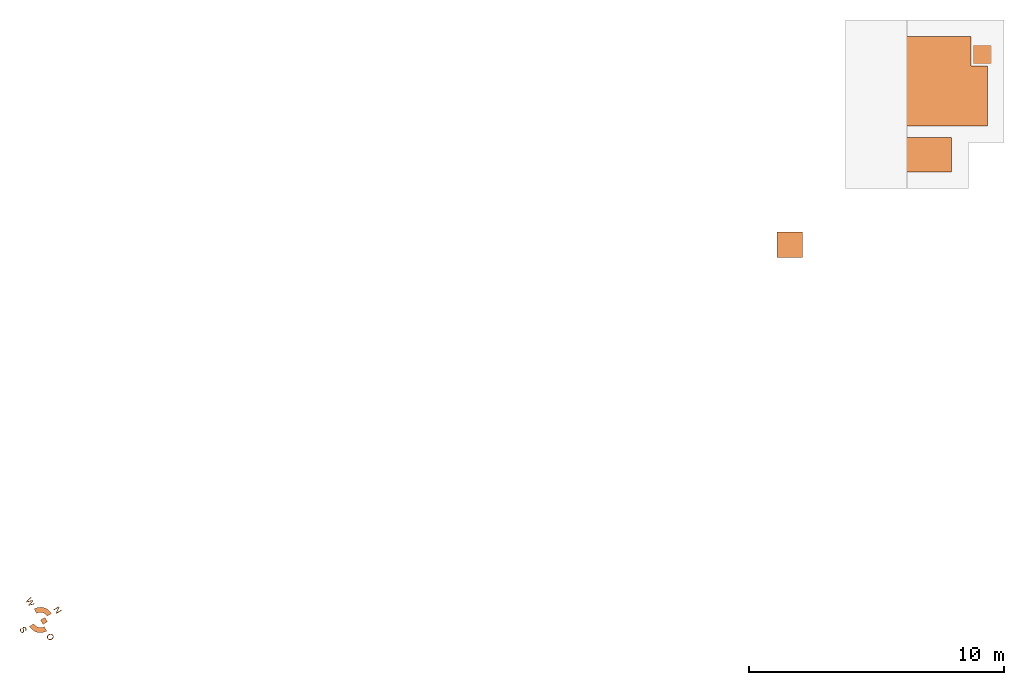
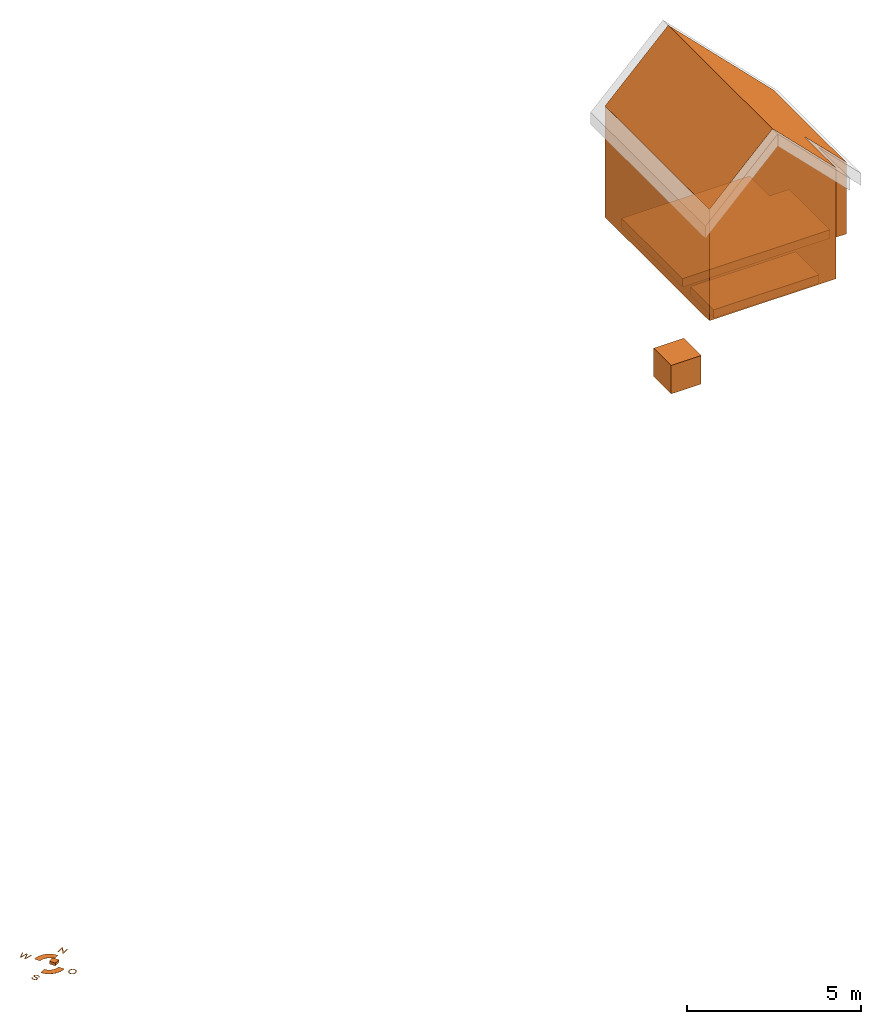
# Not in any storey, part 2 of 2: 4 proxies.
"""IFC2X3 model written with IfcOpenShell, lengths in millimetres."""

from ifc_helpers import new_model, si_unit, frame, origin_with_axes, place, context, subcontext, project, spatial, faceted_brep, material, type_object, element, save


model = new_model("IFC2X3")

# Units and contexts
model_context = context("Model", 3, precision=0.001, world=origin_with_axes())
body_context = subcontext(model_context, "Body", "Model", "MODEL_VIEW")
ifc_project = project(units=[si_unit("LENGTHUNIT", "METRE", prefix="MILLI"), si_unit("AREAUNIT", "SQUARE_METRE"), si_unit("VOLUMEUNIT", "CUBIC_METRE")], contexts=[model_context])

# Site
site_placement = place(None, frame((-28841.016, -14200.0, -1300.0), z_axis=(0.0, 0.0, 1.0), x_axis=(0.4999999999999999, -0.8660254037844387, 0.0)))
site = spatial("IfcSite", under=ifc_project, at=site_placement, Name="environment - site", CompositionType="ELEMENT")

# Proxies
ifc_material_1 = material(Name="virtual_spatial-zone")
building_element_proxy_type_1 = type_object("IfcBuildingElementProxyType", Name="house - gross volume", PredefinedType="NOTDEFINED")
proxy_1_placement = place(site_placement, frame((1024.871, 36175.129, 1300.0), z_axis=(0.0, 0.0, 1.0), x_axis=(0.4999999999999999, 0.8660254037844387, 0.0)))
element("IfcBuildingElementProxy", 1, at=proxy_1_placement, inside=site, type_object=building_element_proxy_type_1, material=ifc_material_1, Name="house - gross volume", ObjectType="gross volume", context=body_context, shape_type="Brep", body=[
    faceted_brep([(2100.0, 0.0, 5700.0), (2100.0, 6000.0, 5700.0), (0.0, 6000.0, 3600.0), (0.0, 0.0, 3600.0), (5600.0, 1800.0, 2200.0), (5600.0, 6000.0, 2200.0), (4200.0, 0.0, 3600.0), (4200.0, 1800.0, 3600.0), (0.0, 6000.0, -300.0), (5600.0, 6000.0, -300.0), (0.0, 0.0, -300.0), (4200.0, 0.0, -300.0), (5600.0, 1800.0, -300.0), (4200.0, 1800.0, -300.0)], [[[0, 1, 2, 3]], [[4, 5, 1, 0, 6, 7]], [[8, 2, 1, 5, 9]], [[8, 10, 3, 2]], [[10, 11, 6, 0, 3]], [[4, 12, 9, 5]], [[11, 13, 7, 6]], [[13, 12, 4, 7]], [[8, 9, 12, 13, 11, 10]]]),
])
ifc_material_2 = material(Name="bulk-material_sand-coarse_generic")
building_element_proxy_type_2 = type_object("IfcBuildingElementProxyType", Name="sand bedding", PredefinedType="NOTDEFINED")
proxy_2_placement = place(site_placement, frame((1024.871, 36175.129, 1300.0), z_axis=(0.0, 0.0, 1.0), x_axis=(0.4999999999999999, 0.8660254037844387, 0.0)))
element("IfcBuildingElementProxy", 2, at=proxy_2_placement, inside=site, type_object=building_element_proxy_type_2, material=ifc_material_2, Name="sand bedding", ObjectType="subgrade", context=body_context, shape_type="Brep", body=[
    faceted_brep([(3662.324, 800.0, -550.0), (2800.0, 800.0, -598.692), (2800.0, 1248.138, -550.0), (3034.54, 565.46, -550.0), (2612.046, 987.954, -550.0), (3850.0, 1700.0, -550.0), (3850.0, 350.0, -550.0), (350.0, 350.0, -550.0), (350.0, 1700.0, -550.0), (2508.771, 800.0, -550.0), (2800.0, 401.153, -550.0), (3850.0, 1700.0, -250.0), (3850.0, 350.0, -250.0), (350.0, 350.0, -250.0), (350.0, 1700.0, -250.0)], [[[0, 1, 2]], [[3, 1, 0]], [[2, 1, 4]], [[5, 6, 7, 8], [3, 0, 2, 4, 9, 10]], [[10, 1, 3]], [[4, 1, 9]], [[6, 5, 11, 12]], [[12, 13, 7, 6]], [[8, 7, 13, 14]], [[5, 8, 14, 11]], [[9, 1, 10]], [[12, 11, 14, 13]]]),
    faceted_brep([(5250.0, 2150.0, -250.0), (5250.0, 4500.0, -250.0), (4600.0, 4500.0, -250.0), (4600.0, 5650.0, -250.0), (350.0, 5650.0, -250.0), (350.0, 2150.0, -250.0), (5250.0, 2150.0, -550.0), (5250.0, 4500.0, -550.0), (4600.0, 4500.0, -550.0), (4600.0, 5650.0, -550.0), (350.0, 5650.0, -550.0), (350.0, 2150.0, -550.0)], [[[0, 1, 2, 3, 4, 5]], [[1, 0, 6, 7]], [[1, 7, 8, 2]], [[2, 8, 9, 3]], [[9, 10, 4, 3]], [[5, 4, 10, 11]], [[0, 5, 11, 6]], [[10, 9, 8, 7, 6, 11]]]),
])
ifc_material_3 = material(Name="virtual_white")
building_element_proxy_type_3 = type_object("IfcBuildingElementProxyType", Name="origin", PredefinedType="NOTDEFINED")
proxy_3_placement = place(site_placement, frame((2122.947, 32077.053, 1300.0), z_axis=(0.0, 0.0, 1.0), x_axis=(0.4999999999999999, 0.8660254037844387, 0.0)))
element("IfcBuildingElementProxy", 3, at=proxy_3_placement, inside=site, type_object=building_element_proxy_type_3, material=ifc_material_3, Name="origin", ObjectType="origin", context=body_context, shape_type="Brep", body=[
    faceted_brep([(1000.0, 0.0, 0.0), (1000.0, 1000.0, 0.0), (1000.0, 1000.0, 1000.0), (1000.0, 0.0, 1000.0), (0.0, 1000.0, 0.0), (0.0, 0.0, 0.0), (0.0, 1000.0, 1000.0), (0.0, 0.0, 1000.0)], [[[0, 1, 2, 3]], [[4, 1, 0, 5]], [[1, 4, 6, 2]], [[2, 6, 7, 3]], [[5, 0, 3, 7]], [[4, 5, 7, 6]]]),
])
ifc_material_4 = material(Name="virtual_black")
building_element_proxy_type_4 = type_object("IfcBuildingElementProxyType", Name="geo-reference", PredefinedType="NOTDEFINED")
proxy_4_placement = place(site_placement, frame((0.0, 0.0, 0.0), z_axis=(0.0, 0.0, 1.0), x_axis=(1.0, 1.487416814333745e-17, 0.0)))
element("IfcBuildingElementProxy", 4, at=proxy_4_placement, inside=site, type_object=building_element_proxy_type_4, material=ifc_material_4, Name="geo-reference", ObjectType="origin", context=body_context, shape_type="Brep", body=[
    faceted_brep([(0.3, -300.0, 5.0), (0.3, -300.0, 0.0), (0.3, -500.0, 0.0), (0.3, -500.0, 5.0), (58.827, -294.236, 5.0), (58.827, -294.236, 0.0), (191.642, -461.94, 0.0), (97.845, -490.393, 0.0), (115.105, -277.164, 0.0), (166.971, -249.441, 0.0), (212.432, -212.132, 0.0), (249.741, -166.671, 0.0), (277.464, -114.805, 0.0), (294.536, -58.527, 0.0), (300.3, 0.0, 0.0), (500.3, 0.0, 0.0), (490.693, -97.545, 0.0), (462.24, -191.342, 0.0), (416.035, -277.785, 0.0), (353.853, -353.553, 0.0), (278.085, -415.735, 0.0), (97.845, -490.393, 5.0), (300.3, 0.0, 5.0), (294.536, -58.527, 5.0), (277.464, -114.805, 5.0), (249.741, -166.671, 5.0), (212.432, -212.132, 5.0), (166.971, -249.441, 5.0), (115.105, -277.164, 5.0), (191.642, -461.94, 5.0), (278.085, -415.735, 5.0), (353.853, -353.553, 5.0), (416.035, -277.785, 5.0), (462.24, -191.342, 5.0), (490.693, -97.545, 5.0), (500.3, 0.0, 5.0)], [[[0, 1, 2, 3]], [[0, 4, 5, 1]], [[6, 7, 2, 1, 5, 8, 9, 10, 11, 12, 13, 14, 15, 16, 17, 18, 19, 20]], [[2, 7, 21, 3]], [[22, 23, 24, 25, 26, 27, 28, 4, 0, 3, 21, 29, 30, 31, 32, 33, 34, 35]], [[5, 4, 28, 8]], [[6, 29, 21, 7]], [[8, 28, 27, 9]], [[26, 10, 9, 27]], [[10, 26, 25, 11]], [[24, 12, 11, 25]], [[13, 12, 24, 23]], [[22, 14, 13, 23]], [[14, 22, 35, 15]], [[34, 16, 15, 35]], [[17, 16, 34, 33]], [[33, 32, 18, 17]], [[19, 18, 32, 31]], [[31, 30, 20, 19]], [[29, 6, 20, 30]]]),
    faceted_brep([(881.793, 37.789, 0.0), (877.313, 53.797, 0.0), (877.313, 53.797, 5.0), (881.793, 37.789, 5.0), (650.3, 0.0, 0.0), (652.354, 28.939, 0.0), (658.516, 54.557, 0.0), (668.786, 76.852, 0.0), (683.164, 95.825, 0.0), (700.79, 110.973, 0.0), (720.806, 121.793, 0.0), (743.212, 128.285, 0.0), (768.006, 130.449, 0.0), (784.606, 129.433, 0.0), (800.367, 126.383, 0.0), (815.29, 121.301, 0.0), (829.374, 114.185, 0.0), (842.228, 105.251, 0.0), (853.456, 94.714, 0.0), (863.061, 82.574, 0.0), (871.041, 68.83, 0.0), (884.481, 20.807, 0.0), (885.377, 2.85, 0.0), (884.434, -15.353, 0.0), (881.604, -32.57, 0.0), (876.889, -48.803, 0.0), (870.287, -64.051, 0.0), (861.955, -77.91, 0.0), (852.052, -89.977, 0.0), (840.577, -100.253, 0.0), (827.53, -108.736, 0.0), (813.425, -115.375, 0.0), (798.774, -120.117, 0.0), (783.579, -122.962, 0.0), (767.839, -123.91, 0.0), (750.946, -122.862, 0.0), (734.975, -119.718, 0.0), (719.926, -114.479, 0.0), (705.8, -107.143, 0.0), (692.962, -97.994, 0.0), (681.781, -87.316, 0.0), (672.255, -75.107, 0.0), (664.385, -61.368, 0.0), (653.821, -31.522, 0.0), (683.835, -0.503, 0.0), (685.328, -21.541, 0.0), (689.808, -40.22, 0.0), (697.275, -56.542, 0.0), (707.728, -70.506, 0.0), (720.434, -81.693, 0.0), (734.66, -89.684, 0.0), (750.406, -94.478, 0.0), (767.671, -96.076, 0.0), (785.219, -94.463, 0.0), (801.143, -89.621, 0.0), (815.442, -81.552, 0.0), (828.117, -70.255, 0.0), (838.497, -55.992, 0.0), (845.911, -39.026, 0.0), (850.36, -19.356, 0.0), (851.843, 3.018, 0.0), (849.307, 31.124, 0.0), (841.698, 55.416, 0.0), (829.207, 75.285, 0.0), (812.02, 90.124, 0.0), (791.292, 99.367, 0.0), (768.174, 102.448, 0.0), (751.506, 100.965, 0.0), (736.044, 96.517, 0.0), (721.786, 89.102, 0.0), (708.734, 78.722, 0.0), (697.84, 64.874, 0.0), (690.059, 47.053, 0.0), (685.391, 25.261, 0.0), (871.041, 68.83, 5.0), (652.354, 28.939, 5.0), (650.3, 0.0, 5.0), (653.821, -31.522, 5.0), (664.385, -61.368, 5.0), (672.255, -75.107, 5.0), (681.781, -87.316, 5.0), (692.962, -97.994, 5.0), (705.8, -107.143, 5.0), (719.926, -114.479, 5.0), (734.975, -119.718, 5.0), (750.946, -122.862, 5.0), (767.839, -123.91, 5.0), (783.579, -122.962, 5.0), (798.774, -120.117, 5.0), (813.425, -115.375, 5.0), (827.53, -108.736, 5.0), (840.577, -100.253, 5.0), (852.052, -89.977, 5.0), (861.955, -77.91, 5.0), (870.287, -64.051, 5.0), (876.889, -48.803, 5.0), (881.604, -32.57, 5.0), (884.434, -15.353, 5.0), (885.377, 2.85, 5.0), (884.481, 20.807, 5.0), (863.061, 82.574, 5.0), (853.456, 94.714, 5.0), (842.228, 105.251, 5.0), (829.374, 114.185, 5.0), (815.29, 121.301, 5.0), (800.367, 126.383, 5.0), (784.606, 129.433, 5.0), (768.006, 130.449, 5.0), (743.212, 128.285, 5.0), (720.806, 121.793, 5.0), (700.79, 110.973, 5.0), (683.164, 95.825, 5.0), (668.786, 76.852, 5.0), (658.516, 54.557, 5.0), (685.328, -21.541, 5.0), (683.835, -0.503, 5.0), (685.391, 25.261, 5.0), (690.059, 47.053, 5.0), (697.84, 64.874, 5.0), (708.734, 78.722, 5.0), (721.786, 89.102, 5.0), (736.044, 96.517, 5.0), (751.506, 100.965, 5.0), (768.174, 102.448, 5.0), (791.292, 99.367, 5.0), (812.02, 90.124, 5.0), (829.207, 75.285, 5.0), (841.698, 55.416, 5.0), (849.307, 31.124, 5.0), (851.843, 3.018, 5.0), (850.36, -19.356, 5.0), (845.911, -39.026, 5.0), (838.497, -55.992, 5.0), (828.117, -70.255, 5.0), (815.442, -81.552, 5.0), (801.143, -89.621, 5.0), (785.219, -94.463, 5.0), (767.671, -96.076, 5.0), (750.406, -94.478, 5.0), (734.66, -89.684, 5.0), (720.434, -81.693, 5.0), (707.728, -70.506, 5.0), (697.275, -56.542, 5.0), (689.808, -40.22, 5.0)], [[[0, 1, 2, 3]], [[4, 5, 6, 7, 8, 9, 10, 11, 12, 13, 14, 15, 16, 17, 18, 19, 20, 1, 0, 21, 22, 23, 24, 25, 26, 27, 28, 29, 30, 31, 32, 33, 34, 35, 36, 37, 38, 39, 40, 41, 42, 43], [44, 45, 46, 47, 48, 49, 50, 51, 52, 53, 54, 55, 56, 57, 58, 59, 60, 61, 62, 63, 64, 65, 66, 67, 68, 69, 70, 71, 72, 73]], [[1, 20, 74, 2]], [[75, 76, 77, 78, 79, 80, 81, 82, 83, 84, 85, 86, 87, 88, 89, 90, 91, 92, 93, 94, 95, 96, 97, 98, 99, 3, 2, 74, 100, 101, 102, 103, 104, 105, 106, 107, 108, 109, 110, 111, 112, 113], [114, 115, 116, 117, 118, 119, 120, 121, 122, 123, 124, 125, 126, 127, 128, 129, 130, 131, 132, 133, 134, 135, 136, 137, 138, 139, 140, 141, 142, 143]], [[21, 0, 3, 99]], [[5, 4, 76, 75]], [[6, 5, 75, 113]], [[7, 6, 113, 112]], [[8, 7, 112, 111]], [[9, 8, 111, 110]], [[10, 9, 110, 109]], [[11, 10, 109, 108]], [[12, 11, 108, 107]], [[13, 12, 107, 106]], [[14, 13, 106, 105]], [[15, 14, 105, 104]], [[16, 15, 104, 103]], [[17, 16, 103, 102]], [[18, 17, 102, 101]], [[19, 18, 101, 100]], [[20, 19, 100, 74]], [[22, 21, 99, 98]], [[23, 22, 98, 97]], [[24, 23, 97, 96]], [[25, 24, 96, 95]], [[26, 25, 95, 94]], [[27, 26, 94, 93]], [[28, 27, 93, 92]], [[29, 28, 92, 91]], [[30, 29, 91, 90]], [[31, 30, 90, 89]], [[32, 31, 89, 88]], [[33, 32, 88, 87]], [[34, 33, 87, 86]], [[35, 34, 86, 85]], [[36, 35, 85, 84]], [[37, 36, 84, 83]], [[38, 37, 83, 82]], [[39, 38, 82, 81]], [[40, 39, 81, 80]], [[41, 40, 80, 79]], [[42, 41, 79, 78]], [[43, 42, 78, 77]], [[4, 43, 77, 76]], [[45, 44, 115, 114]], [[46, 45, 114, 143]], [[47, 46, 143, 142]], [[48, 47, 142, 141]], [[49, 48, 141, 140]], [[50, 49, 140, 139]], [[51, 50, 139, 138]], [[52, 51, 138, 137]], [[53, 52, 137, 136]], [[54, 53, 136, 135]], [[55, 54, 135, 134]], [[56, 55, 134, 133]], [[57, 56, 133, 132]], [[58, 57, 132, 131]], [[59, 58, 131, 130]], [[60, 59, 130, 129]], [[61, 60, 129, 128]], [[62, 61, 128, 127]], [[63, 62, 127, 126]], [[64, 63, 126, 125]], [[65, 64, 125, 124]], [[66, 65, 124, 123]], [[67, 66, 123, 122]], [[68, 67, 122, 121]], [[69, 68, 121, 120]], [[70, 69, 120, 119]], [[71, 70, 119, 118]], [[72, 71, 118, 117]], [[73, 72, 117, 116]], [[44, 73, 116, 115]]]),
    faceted_brep([(-900.538, -122.904, 0.0), (-867.339, -122.904, 0.0), (-867.339, -122.904, 5.0), (-900.538, -122.904, 5.0), (-965.763, 122.904, 0.0), (-932.396, 122.904, 0.0), (-895.005, -38.229, 0.0), (-884.609, -88.531, 0.0), (-873.543, -43.092, 0.0), (-826.762, 122.904, 0.0), (-787.527, 122.904, 0.0), (-752.316, -1.509, 0.0), (-740.914, -46.403, 0.0), (-733.201, -88.531, 0.0), (-720.961, -35.044, 0.0), (-682.396, 122.904, 0.0), (-649.7, 122.904, 0.0), (-717.104, -122.904, 0.0), (-748.459, -122.904, 0.0), (-800.27, 64.386, 0.0), (-807.983, 93.226, 0.0), (-815.193, 64.386, 0.0), (-815.193, 64.386, 5.0), (-965.763, 122.904, 5.0), (-807.983, 93.226, 5.0), (-800.27, 64.386, 5.0), (-748.459, -122.904, 5.0), (-717.104, -122.904, 5.0), (-649.7, 122.904, 5.0), (-682.396, 122.904, 5.0), (-720.961, -35.044, 5.0), (-733.201, -88.531, 5.0), (-740.914, -46.403, 5.0), (-752.316, -1.509, 5.0), (-787.527, 122.904, 5.0), (-826.762, 122.904, 5.0), (-873.543, -43.092, 5.0), (-884.609, -88.531, 5.0), (-895.005, -38.229, 5.0), (-932.396, 122.904, 5.0)], [[[0, 1, 2, 3]], [[0, 4, 5, 6, 7, 8, 9, 10, 11, 12, 13, 14, 15, 16, 17, 18, 19, 20, 21, 1]], [[1, 21, 22, 2]], [[23, 3, 2, 22, 24, 25, 26, 27, 28, 29, 30, 31, 32, 33, 34, 35, 36, 37, 38, 39]], [[4, 0, 3, 23]], [[5, 4, 23, 39]], [[6, 5, 39, 38]], [[7, 6, 38, 37]], [[8, 7, 37, 36]], [[9, 8, 36, 35]], [[10, 9, 35, 34]], [[11, 10, 34, 33]], [[12, 11, 33, 32]], [[13, 12, 32, 31]], [[14, 13, 31, 30]], [[15, 14, 30, 29]], [[16, 15, 29, 28]], [[17, 16, 28, 27]], [[18, 17, 27, 26]], [[19, 18, 26, 25]], [[20, 19, 25, 24]], [[21, 20, 24, 22]]]),
    faceted_brep([(-64.254, 650.0, 0.0), (-64.254, 843.159, 0.0), (-64.254, 843.159, 5.0), (-64.254, 650.0, 5.0), (-95.441, 650.0, 0.0), (-95.441, 895.808, 0.0), (-62.074, 895.808, 0.0), (67.034, 702.817, 0.0), (67.034, 895.808, 0.0), (98.221, 895.808, 0.0), (98.221, 650.0, 0.0), (64.854, 650.0, 0.0), (64.854, 650.0, 5.0), (-95.441, 895.808, 5.0), (-95.441, 650.0, 5.0), (98.221, 650.0, 5.0), (98.221, 895.808, 5.0), (67.034, 895.808, 5.0), (67.034, 702.817, 5.0), (-62.074, 895.808, 5.0)], [[[0, 1, 2, 3]], [[4, 5, 6, 7, 8, 9, 10, 11, 1, 0]], [[1, 11, 12, 2]], [[13, 14, 3, 2, 12, 15, 16, 17, 18, 19]], [[4, 0, 3, 14]], [[5, 4, 14, 13]], [[6, 5, 13, 19]], [[7, 6, 19, 18]], [[8, 7, 18, 17]], [[9, 8, 17, 16]], [[10, 9, 16, 15]], [[11, 10, 15, 12]]]),
    faceted_brep([(-299.7, 0.0, 5.0), (-299.7, 0.0, 0.0), (-293.936, 58.527, 0.0), (-293.936, 58.527, 5.0), (-499.7, 0.0, 5.0), (-499.7, 0.0, 0.0), (-490.093, 97.545, 0.0), (-461.64, 191.342, 0.0), (-415.435, 277.785, 0.0), (-353.253, 353.553, 0.0), (-277.485, 415.735, 0.0), (-191.042, 461.94, 0.0), (-97.245, 490.393, 0.0), (0.3, 500.0, 0.0), (0.3, 300.0, 0.0), (-58.227, 294.236, 0.0), (-114.505, 277.164, 0.0), (-166.371, 249.441, 0.0), (-211.832, 212.132, 0.0), (-249.141, 166.671, 0.0), (-276.864, 114.805, 0.0), (-276.864, 114.805, 5.0), (-114.505, 277.164, 5.0), (-58.227, 294.236, 5.0), (0.3, 300.0, 5.0), (0.3, 500.0, 5.0), (-97.245, 490.393, 5.0), (-191.042, 461.94, 5.0), (-277.485, 415.735, 5.0), (-353.253, 353.553, 5.0), (-415.435, 277.785, 5.0), (-461.64, 191.342, 5.0), (-490.093, 97.545, 5.0), (-249.141, 166.671, 5.0), (-211.832, 212.132, 5.0), (-166.371, 249.441, 5.0)], [[[0, 1, 2, 3]], [[1, 0, 4, 5]], [[6, 7, 8, 9, 10, 11, 12, 13, 14, 15, 16, 17, 18, 19, 20, 2, 1, 5]], [[3, 2, 20, 21]], [[22, 23, 24, 25, 26, 27, 28, 29, 30, 31, 32, 4, 0, 3, 21, 33, 34, 35]], [[4, 32, 6, 5]], [[32, 31, 7, 6]], [[8, 7, 31, 30]], [[9, 8, 30, 29]], [[29, 28, 10, 9]], [[11, 10, 28, 27]], [[12, 11, 27, 26]], [[13, 12, 26, 25]], [[24, 14, 13, 25]], [[24, 23, 15, 14]], [[22, 16, 15, 23]], [[16, 22, 35, 17]], [[34, 18, 17, 35]], [[33, 19, 18, 34]], [[19, 33, 21, 20]]]),
    faceted_brep([(200.3, 0.0, 0.0), (0.3, 0.0, 0.0), (0.3, 200.0, 0.0), (200.3, 200.0, 0.0), (200.3, 0.0, 100.0), (0.3, 0.0, 100.0), (0.3, 200.0, 100.0), (200.3, 200.0, 100.0)], [[[0, 1, 2, 3]], [[1, 0, 4, 5]], [[2, 1, 5, 6]], [[3, 2, 6, 7]], [[0, 3, 7, 4]], [[5, 4, 7, 6]]]),
    faceted_brep([(-102.651, -821.026, 0.0), (-71.967, -818.343, 0.0), (-68.341, -835.132, 0.0), (-61.823, -848.608, 0.0), (-51.658, -859.297, 0.0), (-37.091, -867.723, 0.0), (-19.276, -873.193, 0.0), (0.635, -875.017, 0.0), (18.157, -873.633, 0.0), (33.499, -869.484, 0.0), (45.928, -862.923, 0.0), (54.71, -854.309, 0.0), (59.929, -844.228, 0.0), (61.668, -833.266, 0.0), (59.991, -822.43, 0.0), (54.961, -813.062, 0.0), (46.075, -805.118, 0.0), (32.829, -798.558, 0.0), (-10.934, -786.569, 0.0), (-39.732, -778.668, 0.0), (-58.385, -771.227, 0.0), (-73.748, -760.895, 0.0), (-84.626, -748.34, 0.0), (-91.103, -733.857, 0.0), (-93.261, -717.74, 0.0), (-90.621, -699.736, 0.0), (-82.698, -682.948, 0.0), (-69.703, -668.716, 0.0), (-51.846, -658.384, 0.0), (-30.426, -652.096, 0.0), (-6.742, -650.0, 0.0), (18.975, -652.201, 0.0), (41.464, -658.803, 0.0), (59.929, -669.681, 0.0), (73.573, -684.708, 0.0), (82.208, -702.943, 0.0), (85.645, -723.441, 0.0), (54.458, -725.788, 0.0), (48.946, -705.332, 0.0), (43.942, -697.242, 0.0), (37.44, -690.577, 0.0), (29.323, -685.368, 0.0), (19.478, -681.648, 0.0), (-5.401, -678.672, 0.0), (-30.908, -681.376, 0.0), (-40.659, -684.755, 0.0), (-48.409, -689.487, 0.0), (-58.532, -701.413, 0.0), (-61.907, -715.56, 0.0), (-59.517, -727.632, 0.0), (-52.349, -737.357, 0.0), (-35.393, -746.014, 0.0), (-3.305, -754.879, 0.0), (30.125, -763.284, 0.0), (51.105, -770.557, 0.0), (69.758, -781.77, 0.0), (82.795, -795.624, 0.0), (90.466, -811.951, 0.0), (93.023, -830.584, 0.0), (90.214, -849.635, 0.0), (81.789, -867.555, 0.0), (68.103, -882.981, 0.0), (49.512, -894.551, 0.0), (27.149, -901.782, 0.0), (2.144, -904.192, 0.0), (-28.519, -901.761, 0.0), (-53.774, -894.467, 0.0), (-73.895, -882.29, 0.0), (-89.153, -865.208, 0.0), (-98.941, -844.396, 0.0), (-102.651, -821.026, 5.0), (-71.967, -818.343, 5.0), (-68.341, -835.132, 5.0), (-61.823, -848.608, 5.0), (-51.658, -859.297, 5.0), (-37.091, -867.723, 5.0), (-19.276, -873.193, 5.0), (0.635, -875.017, 5.0), (18.157, -873.633, 5.0), (33.499, -869.484, 5.0), (45.928, -862.923, 5.0), (54.71, -854.309, 5.0), (59.929, -844.228, 5.0), (61.668, -833.266, 5.0), (59.991, -822.43, 5.0), (54.961, -813.062, 5.0), (46.075, -805.118, 5.0), (32.829, -798.558, 5.0), (-10.934, -786.569, 5.0), (-39.732, -778.668, 5.0), (-58.385, -771.227, 5.0), (-73.748, -760.895, 5.0), (-84.626, -748.34, 5.0), (-91.103, -733.857, 5.0), (-93.261, -717.74, 5.0), (-90.621, -699.736, 5.0), (-82.698, -682.948, 5.0), (-69.703, -668.716, 5.0), (-51.846, -658.384, 5.0), (-30.426, -652.096, 5.0), (-6.742, -650.0, 5.0), (18.975, -652.201, 5.0), (41.464, -658.803, 5.0), (59.929, -669.681, 5.0), (73.573, -684.708, 5.0), (82.208, -702.943, 5.0), (85.645, -723.441, 5.0), (54.458, -725.788, 5.0), (48.946, -705.332, 5.0), (43.942, -697.242, 5.0), (37.44, -690.577, 5.0), (29.323, -685.368, 5.0), (19.478, -681.648, 5.0), (-5.401, -678.672, 5.0), (-30.908, -681.376, 5.0), (-40.659, -684.755, 5.0), (-48.409, -689.487, 5.0), (-58.532, -701.413, 5.0), (-61.907, -715.56, 5.0), (-59.517, -727.632, 5.0), (-52.349, -737.357, 5.0), (-35.393, -746.014, 5.0), (-3.305, -754.879, 5.0), (30.125, -763.284, 5.0), (51.105, -770.557, 5.0), (69.758, -781.77, 5.0), (82.795, -795.624, 5.0), (90.466, -811.951, 5.0), (93.023, -830.584, 5.0), (90.214, -849.635, 5.0), (81.789, -867.555, 5.0), (68.103, -882.981, 5.0), (49.512, -894.551, 5.0), (27.149, -901.782, 5.0), (2.144, -904.192, 5.0), (-28.519, -901.761, 5.0), (-53.774, -894.467, 5.0), (-73.895, -882.29, 5.0), (-89.153, -865.208, 5.0), (-98.941, -844.396, 5.0)], [[[0, 1, 2, 3, 4, 5, 6, 7, 8, 9, 10, 11, 12, 13, 14, 15, 16, 17, 18, 19, 20, 21, 22, 23, 24, 25, 26, 27, 28, 29, 30, 31, 32, 33, 34, 35, 36, 37, 38, 39, 40, 41, 42, 43, 44, 45, 46, 47, 48, 49, 50, 51, 52, 53, 54, 55, 56, 57, 58, 59, 60, 61, 62, 63, 64, 65, 66, 67, 68, 69]], [[1, 0, 70, 71]], [[2, 1, 71, 72]], [[3, 2, 72, 73]], [[4, 3, 73, 74]], [[5, 4, 74, 75]], [[6, 5, 75, 76]], [[7, 6, 76, 77]], [[8, 7, 77, 78]], [[9, 8, 78, 79]], [[10, 9, 79, 80]], [[11, 10, 80, 81]], [[12, 11, 81, 82]], [[13, 12, 82, 83]], [[14, 13, 83, 84]], [[15, 14, 84, 85]], [[16, 15, 85, 86]], [[17, 16, 86, 87]], [[87, 88, 89]], [[87, 89, 19]], [[87, 19, 18]], [[87, 18, 17]], [[20, 19, 89, 90]], [[21, 20, 90, 91]], [[22, 21, 91, 92]], [[23, 22, 92, 93]], [[24, 23, 93, 94]], [[25, 24, 94, 95]], [[26, 25, 95, 96]], [[27, 26, 96, 97]], [[28, 27, 97, 98]], [[29, 28, 98, 99]], [[30, 29, 99, 100]], [[31, 30, 100, 101]], [[32, 31, 101, 102]], [[33, 32, 102, 103]], [[34, 33, 103, 104]], [[35, 34, 104, 105]], [[36, 35, 105, 106]], [[37, 36, 106, 107]], [[38, 37, 107, 108]], [[39, 38, 108, 109]], [[40, 39, 109, 110]], [[41, 40, 110, 111]], [[42, 41, 111, 112]], [[43, 42, 112, 113]], [[44, 43, 113, 114]], [[45, 44, 114, 115]], [[46, 45, 115, 116]], [[47, 46, 116, 117]], [[48, 47, 117, 118]], [[49, 48, 118, 119]], [[50, 49, 119, 120]], [[51, 50, 120, 121]], [[52, 51, 121, 122]], [[53, 52, 122, 123]], [[54, 53, 123, 124]], [[55, 54, 124, 125]], [[56, 55, 125, 126]], [[57, 56, 126, 127]], [[58, 57, 127, 128]], [[59, 58, 128, 129]], [[60, 59, 129, 130]], [[61, 60, 130, 131]], [[62, 61, 131, 132]], [[63, 62, 132, 133]], [[64, 63, 133, 134]], [[65, 64, 134, 135]], [[66, 65, 135, 136]], [[67, 66, 136, 137]], [[68, 67, 137, 138]], [[69, 68, 138, 139]], [[0, 69, 139, 70]], [[71, 70, 139, 138, 137, 136, 135, 134, 133, 132, 131, 130, 129, 128, 127, 126, 125, 124, 123, 122, 121, 120, 119, 118, 117, 116, 115, 114, 113, 112, 111, 110, 109, 108, 107, 106, 105, 104, 103, 102, 101, 100, 99, 98, 97, 96, 95, 94, 93, 92, 91, 90, 89, 88, 87, 86, 85, 84, 83, 82, 81, 80, 79, 78, 77, 76, 75, 74, 73, 72]]]),
])

save(model, "model.ifc")
